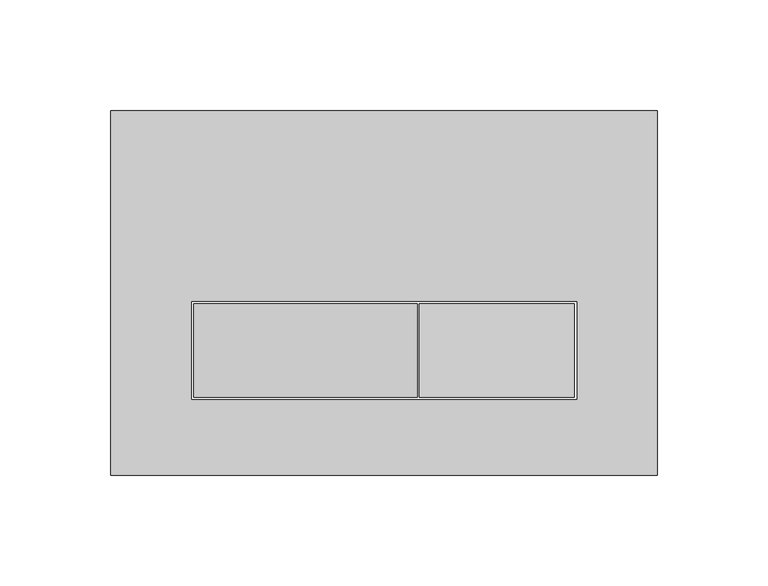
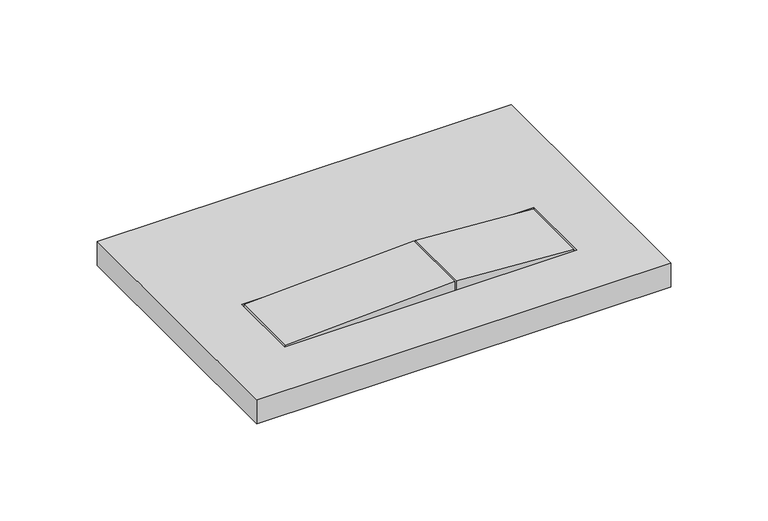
"""IFC4 building model written with IfcOpenShell, lengths in millimetres: flow terminal geometry, NLRS_74_PF_WPB_bedieningsplaat Sigma 50_Geberit : gr/kl spoeling rookglas spiegelend."""

from ifc_helpers import new_model, si_unit, point, frame, frame_2d, origin, origin_with_axes, place, context, project, spatial, polyline, circle_curve, trimmed, segment, composite_curve, outline, extrude, source, transform, mapped, element, save


def flow_terminal_8f664da8(model_context):
    return source(origin(), model_context, "Body", "SweptSolid", [
        extrude(outline(composite_curve([segment(polyline([(15.0, -85.6563623), (0.0, -85.6563623), (0.0, 14.9080224), (19.7676345, 14.9080224)]), True, "CONTINUOUS"), segment(trimmed(circle_curve(frame_2d((-729.8477516, 0.0511646)), 749.7625979), [point((19.7676345, 14.9080224))], [point((15.0, -85.6563623))], False, "CARTESIAN"), True, "CONTINUOUS")], self_intersect=False)), frame((0.0, -46.8586915, 0.0), z_axis=(0.0, 1.0, 0.0), x_axis=(0.0, 0.0, 1.0)), (0.0, 0.0, 1.0), 42.0150538),
        extrude(outline(composite_curve([segment(polyline([(0.0, 85.7586915), (15.0, 85.7586915)]), True, "CONTINUOUS"), segment(trimmed(circle_curve(frame_2d((-729.8477516, 0.0511646)), 749.7625979), [point((15.0, 85.7586915))], [point((19.7471479, 15.9080224))], False, "CARTESIAN"), True, "CONTINUOUS"), segment(polyline([(19.7471479, 15.9080224), (0.0, 15.9080224), (0.0, 85.7586915)]), True, "CONTINUOUS")], self_intersect=False)), frame((0.0, -46.8586915, 0.0), z_axis=(0.0, 1.0, 0.0), x_axis=(0.0, 0.0, 1.0)), (0.0, 0.0, 1.0), 42.0150538),
        extrude(outline(polyline([(-123.0, 82.0), (123.0, 82.0), (123.0, -82.0), (-123.0, -82.0), (-123.0, 82.0)]), holes=[polyline([(-86.6563623, -47.8586915), (86.7586915, -47.8586915), (86.7586915, -3.8436377), (-86.6563623, -3.8436377), (-86.6563623, -47.8586915)])]), origin_with_axes(), (0.0, 0.0, 1.0), 15.0),
    ])


if __name__ == "__main__":
    model = new_model("IFC4")
    model_context = context("Model", 3, world=origin())
    ifc_project = project(units=[si_unit("LENGTHUNIT", "METRE", prefix="MILLI")], contexts=[model_context])
    site = spatial("IfcSite", under=ifc_project)
    building = spatial("IfcBuilding", under=site)
    placement = place(None, origin())
    flow_terminal_shape = flow_terminal_8f664da8(model_context)
    element("IfcFlowTerminal", 1, ObjectType="NLRS_74_PF_WPB_bedieningsplaat Sigma 50_Geberit : gr/kl spoeling rookglas spiegelend", at=placement, inside=building, context=model_context, shape_type="MappedRepresentation", body=[
        mapped(flow_terminal_shape, transform((0.0, 0.0, 0.0), x_axis=(1.0, 0.0, 0.0), y_axis=(0.0, 1.0, 0.0), z_axis=(0.0, 0.0, 1.0))),
    ])
    save(model, "model.ifc")
